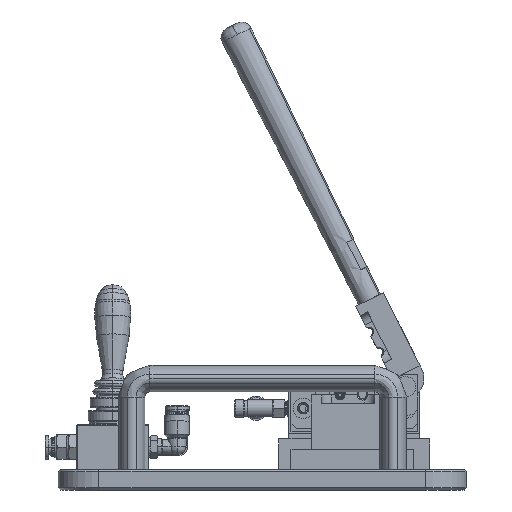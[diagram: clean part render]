
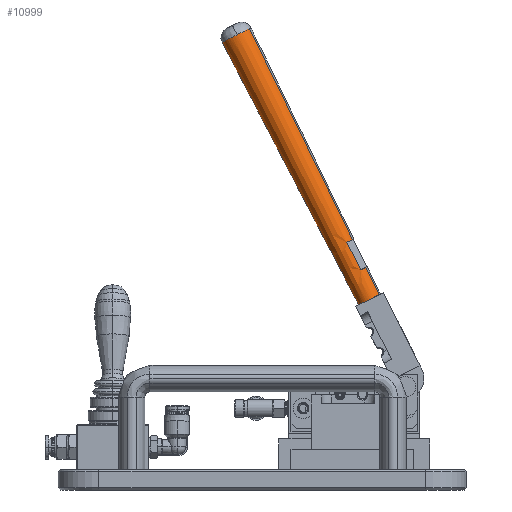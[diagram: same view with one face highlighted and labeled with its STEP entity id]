
A CAD part, left-side view. The second image highlights one B-rep face of the part: STEP entity #10999.
In plain terms, the highlighted conical face has half-angle 0.764 degrees and reference radius 7.932 mm.
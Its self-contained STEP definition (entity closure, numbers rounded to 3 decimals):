
#97 = CARTESIAN_POINT ( 'NONE',  ( 0., 0., 15. ) ) ;
#769 = EDGE_CURVE ( 'NONE', #15736, #92458, #63840, .T. ) ;
#3440 = EDGE_CURVE ( 'NONE', #34855, #53484, #41640, .T. ) ;
#3677 = LINE ( 'NONE', #73662, #98045 ) ;
#3784 = VERTEX_POINT ( 'NONE', #65455 ) ;
#4115 = CARTESIAN_POINT ( 'NONE',  ( 5., 3.666, 15. ) ) ;
#4164 = EDGE_CURVE ( 'NONE', #26543, #41192, #90369, .T. ) ;
#4507 = CIRCLE ( 'NONE', #37900, 6.2 ) ;
#4804 = EDGE_CURVE ( 'NONE', #3784, #80611, #27908, .T. ) ;
#5047 = CARTESIAN_POINT ( 'NONE',  ( 6., 0., 0. ) ) ;
#5565 = DIRECTION ( 'NONE',  ( 0., 0., 1. ) ) ;
#6091 = ORIENTED_EDGE ( 'NONE', *, *, #50722, .F. ) ;
#7784 = DIRECTION ( 'NONE',  ( -1., 0., 0. ) ) ;
#8049 = CARTESIAN_POINT ( 'NONE',  ( -6., 0., 0. ) ) ;
#9179 = B_SPLINE_CURVE_WITH_KNOTS ( 'NONE', 3,
 ( #4115, #49803, #19479, #72829 ),
 .UNSPECIFIED., .F., .F.,
 ( 4, 4 ),
 ( 0.01, 0.025 ),
 .UNSPECIFIED. ) ;
#9199 = ORIENTED_EDGE ( 'NONE', *, *, #82306, .F. ) ;
#9235 = CARTESIAN_POINT ( 'NONE',  ( 5., 3.666, 15. ) ) ;
#9627 = AXIS2_PLACEMENT_3D ( 'NONE', #18670, #72011, #26211 ) ;
#10999 = ADVANCED_FACE ( 'NONE', ( #59861 ), #16949, .T. ) ;
#11020 = CARTESIAN_POINT ( 'NONE',  ( -7.932, 0., 144.933 ) ) ;
#12196 = CARTESIAN_POINT ( 'NONE',  ( -5., 3.666, 15. ) ) ;
#12656 = CARTESIAN_POINT ( 'NONE',  ( 5., 3.995, 30. ) ) ;
#12765 = VERTEX_POINT ( 'NONE', #9235 ) ;
#15736 = VERTEX_POINT ( 'NONE', #5047 ) ;
#16736 = CARTESIAN_POINT ( 'NONE',  ( 7.932, 0., 144.933 ) ) ;
#16949 = CONICAL_SURFACE ( 'NONE', #95800, 7.932, 0.013 ) ;
#18670 = CARTESIAN_POINT ( 'NONE',  ( 0., 0., 0. ) ) ;
#19479 = CARTESIAN_POINT ( 'NONE',  ( 5., 3.888, 25. ) ) ;
#19700 = EDGE_CURVE ( 'NONE', #15736, #25840, #78517, .T. ) ;
#23595 = CARTESIAN_POINT ( 'NONE',  ( -7.932, 0., 144.933 ) ) ;
#25840 = VERTEX_POINT ( 'NONE', #8049 ) ;
#26211 = DIRECTION ( 'NONE',  ( 1., 0., 0. ) ) ;
#26482 = CIRCLE ( 'NONE', #34988, 6.2 ) ;
#26543 = VERTEX_POINT ( 'NONE', #11020 ) ;
#27183 = EDGE_CURVE ( 'NONE', #41192, #95988, #67790, .T. ) ;
#27908 = CIRCLE ( 'NONE', #82146, 6.4 ) ;
#29486 = DIRECTION ( 'NONE',  ( 0., 0., -1. ) ) ;
#30169 = CARTESIAN_POINT ( 'NONE',  ( 0., 0., 30. ) ) ;
#32057 = VERTEX_POINT ( 'NONE', #89640 ) ;
#33127 = CARTESIAN_POINT ( 'NONE',  ( 6.2, 0., 15. ) ) ;
#34855 = VERTEX_POINT ( 'NONE', #42840 ) ;
#34988 = AXIS2_PLACEMENT_3D ( 'NONE', #97, #53474, #7784 ) ;
#36729 = CARTESIAN_POINT ( 'NONE',  ( -6.4, 0., 30. ) ) ;
#37900 = AXIS2_PLACEMENT_3D ( 'NONE', #44862, #98406, #52573 ) ;
#38336 = LINE ( 'NONE', #23595, #53871 ) ;
#41192 = VERTEX_POINT ( 'NONE', #75266 ) ;
#41640 = CIRCLE ( 'NONE', #94144, 6.4 ) ;
#42840 = CARTESIAN_POINT ( 'NONE',  ( -5., 3.995, 30. ) ) ;
#43143 = LINE ( 'NONE', #91751, #83887 ) ;
#44862 = CARTESIAN_POINT ( 'NONE',  ( 0., 0., 15. ) ) ;
#45319 = EDGE_CURVE ( 'NONE', #34855, #90241, #74485, .T. ) ;
#45923 = VECTOR ( 'NONE', #72345, 1000. ) ;
#46234 = EDGE_CURVE ( 'NONE', #53484, #26543, #38336, .T. ) ;
#47734 = ORIENTED_EDGE ( 'NONE', *, *, #65267, .F. ) ;
#49271 = ORIENTED_EDGE ( 'NONE', *, *, #46234, .T. ) ;
#49803 = CARTESIAN_POINT ( 'NONE',  ( 5., 3.779, 20. ) ) ;
#50181 = CARTESIAN_POINT ( 'NONE',  ( -5., 3.995, 30. ) ) ;
#50722 = EDGE_CURVE ( 'NONE', #12765, #80611, #9179, .T. ) ;
#52016 = DIRECTION ( 'NONE',  ( -1., 0., 0. ) ) ;
#52573 = DIRECTION ( 'NONE',  ( -1., 0., 0. ) ) ;
#53474 = DIRECTION ( 'NONE',  ( 0., 0., 1. ) ) ;
#53484 = VERTEX_POINT ( 'NONE', #36729 ) ;
#53779 = DIRECTION ( 'NONE',  ( -1., 0., 0. ) ) ;
#53871 = VECTOR ( 'NONE', #62656, 1000. ) ;
#54696 = ORIENTED_EDGE ( 'NONE', *, *, #73430, .F. ) ;
#56684 = ORIENTED_EDGE ( 'NONE', *, *, #45319, .F. ) ;
#57852 = CARTESIAN_POINT ( 'NONE',  ( -5., 3.779, 20. ) ) ;
#59596 = ORIENTED_EDGE ( 'NONE', *, *, #19700, .T. ) ;
#59861 = FACE_OUTER_BOUND ( 'NONE', #91565, .T. ) ;
#61151 = ORIENTED_EDGE ( 'NONE', *, *, #3440, .T. ) ;
#62656 = DIRECTION ( 'NONE',  ( -0.013, 0., 1. ) ) ;
#63086 = CARTESIAN_POINT ( 'NONE',  ( 0., 0., 30. ) ) ;
#63190 = DIRECTION ( 'NONE',  ( 0., 0., 1. ) ) ;
#63840 = LINE ( 'NONE', #16736, #45923 ) ;
#64608 = EDGE_CURVE ( 'NONE', #25840, #32057, #43143, .T. ) ;
#65267 = EDGE_CURVE ( 'NONE', #3784, #95988, #3677, .T. ) ;
#65312 = CARTESIAN_POINT ( 'NONE',  ( -5., 3.666, 15. ) ) ;
#65455 = CARTESIAN_POINT ( 'NONE',  ( 6.4, 0., 30. ) ) ;
#66565 = CARTESIAN_POINT ( 'NONE',  ( 0., 0., 144.933 ) ) ;
#67790 = CIRCLE ( 'NONE', #87616, 7.932 ) ;
#70154 = DIRECTION ( 'NONE',  ( 0., 0., -1. ) ) ;
#72011 = DIRECTION ( 'NONE',  ( 0., 0., 1. ) ) ;
#72332 = ORIENTED_EDGE ( 'NONE', *, *, #64608, .T. ) ;
#72345 = DIRECTION ( 'NONE',  ( 0.013, 0., 1. ) ) ;
#72829 = CARTESIAN_POINT ( 'NONE',  ( 5., 3.995, 30. ) ) ;
#73174 = ORIENTED_EDGE ( 'NONE', *, *, #4164, .T. ) ;
#73430 = EDGE_CURVE ( 'NONE', #92458, #12765, #4507, .T. ) ;
#73662 = CARTESIAN_POINT ( 'NONE',  ( 7.932, 0., 144.933 ) ) ;
#74353 = AXIS2_PLACEMENT_3D ( 'NONE', #83739, #70154, #93377 ) ;
#74485 = B_SPLINE_CURVE_WITH_KNOTS ( 'NONE', 3,
 ( #50181, #80613, #57852, #12196 ),
 .UNSPECIFIED., .F., .F.,
 ( 4, 4 ),
 ( 0.038, 0.053 ),
 .UNSPECIFIED. ) ;
#75266 = CARTESIAN_POINT ( 'NONE',  ( -4., 6.85, 144.933 ) ) ;
#75277 = CARTESIAN_POINT ( 'NONE',  ( 0., 0., 144.933 ) ) ;
#76025 = DIRECTION ( 'NONE',  ( -0.013, 0., 1. ) ) ;
#78517 = CIRCLE ( 'NONE', #9627, 6. ) ;
#80611 = VERTEX_POINT ( 'NONE', #12656 ) ;
#80613 = CARTESIAN_POINT ( 'NONE',  ( -5., 3.888, 25. ) ) ;
#81377 = DIRECTION ( 'NONE',  ( 0.013, 0., 1. ) ) ;
#82146 = AXIS2_PLACEMENT_3D ( 'NONE', #30169, #90709, #52016 ) ;
#82306 = EDGE_CURVE ( 'NONE', #90241, #32057, #26482, .T. ) ;
#83024 = DIRECTION ( 'NONE',  ( -0.878, -0.479, 0. ) ) ;
#83739 = CARTESIAN_POINT ( 'NONE',  ( 0., 0., 144.933 ) ) ;
#83887 = VECTOR ( 'NONE', #76025, 1000. ) ;
#85395 = ORIENTED_EDGE ( 'NONE', *, *, #769, .F. ) ;
#87616 = AXIS2_PLACEMENT_3D ( 'NONE', #75277, #29486, #83024 ) ;
#87869 = ORIENTED_EDGE ( 'NONE', *, *, #4804, .T. ) ;
#89041 = CARTESIAN_POINT ( 'NONE',  ( 7.932, 0., 144.933 ) ) ;
#89640 = CARTESIAN_POINT ( 'NONE',  ( -6.2, 0., 15. ) ) ;
#90241 = VERTEX_POINT ( 'NONE', #65312 ) ;
#90369 = CIRCLE ( 'NONE', #74353, 7.932 ) ;
#90709 = DIRECTION ( 'NONE',  ( 0., 0., 1. ) ) ;
#91565 = EDGE_LOOP ( 'NONE', ( #59596, #72332, #9199, #56684, #61151, #49271, #73174, #92840, #47734, #87869, #6091, #54696, #85395 ) ) ;
#91751 = CARTESIAN_POINT ( 'NONE',  ( -7.932, 0., 144.933 ) ) ;
#92458 = VERTEX_POINT ( 'NONE', #33127 ) ;
#92840 = ORIENTED_EDGE ( 'NONE', *, *, #27183, .T. ) ;
#93377 = DIRECTION ( 'NONE',  ( -0.878, -0.479, 0. ) ) ;
#94144 = AXIS2_PLACEMENT_3D ( 'NONE', #63086, #63190, #53779 ) ;
#95800 = AXIS2_PLACEMENT_3D ( 'NONE', #66565, #5565, #96696 ) ;
#95988 = VERTEX_POINT ( 'NONE', #89041 ) ;
#96696 = DIRECTION ( 'NONE',  ( 1., 0., 0. ) ) ;
#98045 = VECTOR ( 'NONE', #81377, 1000. ) ;
#98406 = DIRECTION ( 'NONE',  ( 0., 0., 1. ) ) ;
